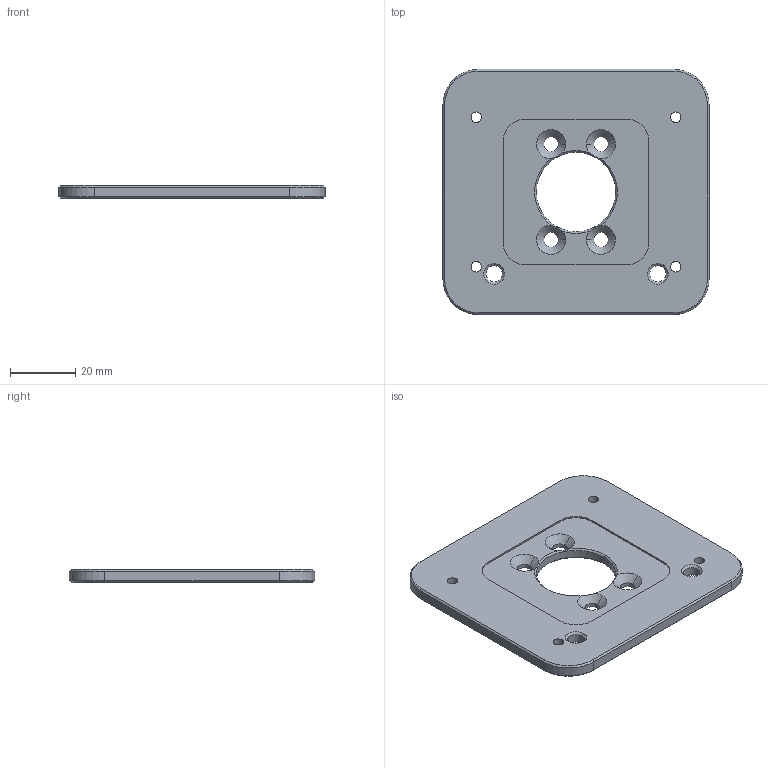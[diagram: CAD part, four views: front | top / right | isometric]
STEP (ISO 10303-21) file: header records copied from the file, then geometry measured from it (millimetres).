
FILE_DESCRIPTION (( 'STEP AP214' ), '1' );
FILE_NAME ('FLX-BXY-AO-SPOM (FLX-BXY-A-1001-SPOM) (CATALOG MODEL).STEP', '2026-08-04T21:24:06', ( '' ), ( '' ), 'SwSTEP 2.0', 'SolidWorks 2025', '' );
FILE_SCHEMA (( 'AUTOMOTIVE_DESIGN' ));
Length unit declared in the file: inch
Products named in the file (1): FLX-BXY-AO-SPOM (FLX-BXY-A-1001-SPOM) (CATALOG MODEL)
Bounding box: 81.28 x 74.93 x 3.99 mm (x, y, z)
Volume: 20410.5 mm3; surface area: 12469.1 mm2
Topology: 1 solids, 1 shells, 85 faces, 220 edges, 132 vertices
Faces by surface type: cone 36, cylinder 30, plane 19
Entity records: 2770 total; most frequent: CARTESIAN_POINT 571, DIRECTION 486, ORIENTED_EDGE 440, EDGE_CURVE 220, AXIS2_PLACEMENT_3D 190, VERTEX_POINT 132, VECTOR 106, LINE 106
